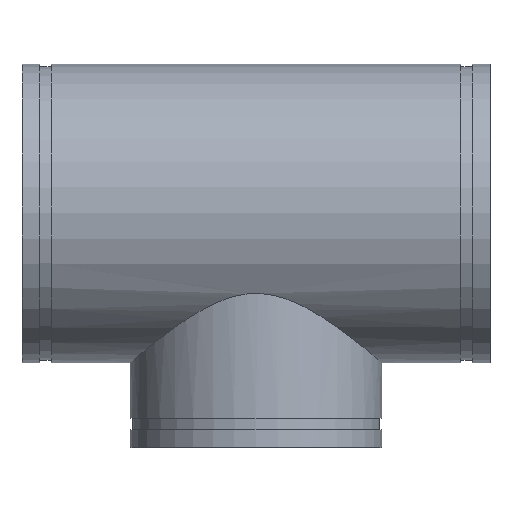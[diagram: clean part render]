
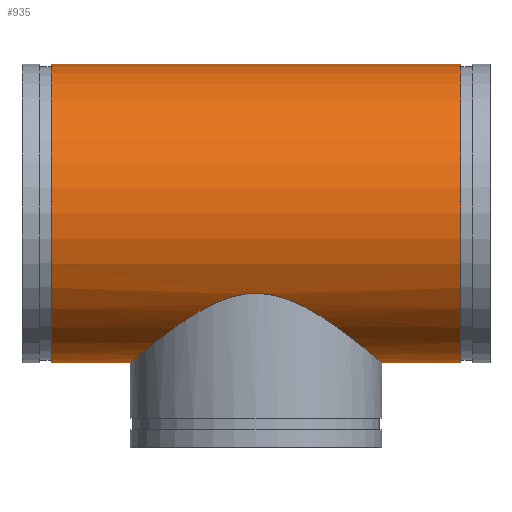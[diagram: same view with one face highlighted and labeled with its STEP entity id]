
A CAD part, top view. The second image highlights one B-rep face of the part: STEP entity #935.
In plain terms, the highlighted cylindrical face has radius 161.925 mm (diameter 323.85 mm), a full revolution.
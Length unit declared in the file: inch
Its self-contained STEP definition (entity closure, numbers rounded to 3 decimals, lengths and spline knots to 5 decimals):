
#61=FACE_BOUND('',#222,.T.);
#67=B_SPLINE_CURVE_WITH_KNOTS('',3,(#1815,#1816,#1817,#1818,#1819,#1820,
#1821,#1822,#1823,#1824,#1825,#1826,#1827,#1828,#1829,#1830,#1831,#1832,
#1833,#1834),.UNSPECIFIED.,.F.,.F.,(4,2,2,2,2,2,2,2,2,4),(0.,1.42907,
2.85814,5.71628,8.57442,11.43256,14.16483,
16.89711,19.62938,22.36165),.UNSPECIFIED.);
#68=B_SPLINE_CURVE_WITH_KNOTS('',3,(#1835,#1836,#1837,#1838,#1839,#1840,
#1841,#1842,#1843,#1844,#1845,#1846,#1847,#1848,#1849,#1850,#1851,#1852,
#1853,#1854,#1855,#1856,#1857,#1858,#1859,#1860,#1861,#1862,#1863,#1864,
#1865,#1866,#1867,#1868,#1869,#1870,#1871,#1872,#1873,#1874,#1875,#1876,
#1877,#1878,#1879,#1880,#1881,#1882,#1883,#1884,#1885,#1886,#1887,#1888,
#1889,#1890),.UNSPECIFIED.,.F.,.F.,(4,2,2,2,2,2,2,2,2,2,2,2,2,2,2,2,2,2,
2,2,2,2,2,2,2,2,2,4),(22.36165,25.09392,27.82619,
30.55846,33.29073,36.14887,39.00702,41.86516,
43.29423,44.7233,46.15237,47.58144,50.43958,
53.29772,56.15586,58.88813,61.6204,64.35267,
67.08495,69.81722,72.54949,75.28176,78.01403,
80.87217,83.73031,86.58845,88.01752,89.44659),
 .UNSPECIFIED.);
#81=CYLINDRICAL_SURFACE('',#1104,6.375);
#103=LINE('',#1812,#125);
#125=VECTOR('',#1432,6.375);
#171=FACE_OUTER_BOUND('',#221,.T.);
#221=EDGE_LOOP('',(#814,#815,#816,#817));
#222=EDGE_LOOP('',(#818,#819));
#326=CIRCLE('',#1087,6.375);
#337=CIRCLE('',#1103,6.375);
#424=VERTEX_POINT('',#1780);
#435=VERTEX_POINT('',#1809);
#436=VERTEX_POINT('',#1813);
#437=VERTEX_POINT('',#1814);
#552=EDGE_CURVE('',#424,#424,#326,.T.);
#565=EDGE_CURVE('',#435,#435,#337,.T.);
#566=EDGE_CURVE('',#435,#424,#103,.T.);
#567=EDGE_CURVE('',#436,#437,#67,.T.);
#568=EDGE_CURVE('',#437,#436,#68,.T.);
#814=ORIENTED_EDGE('',*,*,#565,.T.);
#815=ORIENTED_EDGE('',*,*,#566,.T.);
#816=ORIENTED_EDGE('',*,*,#552,.T.);
#817=ORIENTED_EDGE('',*,*,#566,.F.);
#818=ORIENTED_EDGE('',*,*,#567,.T.);
#819=ORIENTED_EDGE('',*,*,#568,.T.);
#935=ADVANCED_FACE('',(#171,#61),#81,.T.);
#1087=AXIS2_PLACEMENT_3D('',#1781,#1394,#1395);
#1103=AXIS2_PLACEMENT_3D('',#1810,#1428,#1429);
#1104=AXIS2_PLACEMENT_3D('',#1811,#1430,#1431);
#1394=DIRECTION('center_axis',(-1.,0.,0.));
#1395=DIRECTION('ref_axis',(0.,-1.,0.));
#1428=DIRECTION('center_axis',(1.,0.,0.));
#1429=DIRECTION('ref_axis',(0.,-1.,0.));
#1430=DIRECTION('center_axis',(-1.,0.,0.));
#1431=DIRECTION('ref_axis',(0.,-1.,0.));
#1432=DIRECTION('',(1.,0.,0.));
#1780=CARTESIAN_POINT('',(8.75,6.375,0.));
#1781=CARTESIAN_POINT('Origin',(8.75,0.,0.));
#1809=CARTESIAN_POINT('',(-8.75,6.375,0.));
#1810=CARTESIAN_POINT('Origin',(-8.75,0.,0.));
#1811=CARTESIAN_POINT('Origin',(10.,0.,0.));
#1812=CARTESIAN_POINT('',(10.,6.375,0.));
#1813=CARTESIAN_POINT('',(0.,-3.42783,-5.375));
#1814=CARTESIAN_POINT('',(-5.375,-6.375,0.));
#1815=CARTESIAN_POINT('Ctrl Pts',(0.,-3.42783,
-5.375));
#1816=CARTESIAN_POINT('Ctrl Pts',(-0.18754,-3.42783,
-5.375));
#1817=CARTESIAN_POINT('Ctrl Pts',(-0.37281,-3.44334,
-5.36519));
#1818=CARTESIAN_POINT('Ctrl Pts',(-0.73753,-3.50165,
-5.32732));
#1819=CARTESIAN_POINT('Ctrl Pts',(-0.917,-3.5444,
-5.29925));
#1820=CARTESIAN_POINT('Ctrl Pts',(-1.44528,-3.70489,-5.18953));
#1821=CARTESIAN_POINT('Ctrl Pts',(-1.78419,-3.85459,-5.08233));
#1822=CARTESIAN_POINT('Ctrl Pts',(-2.42892,-4.19216,-4.80768));
#1823=CARTESIAN_POINT('Ctrl Pts',(-2.73485,-4.37994,-4.63997));
#1824=CARTESIAN_POINT('Ctrl Pts',(-3.3034,-4.75572,-4.25397));
#1825=CARTESIAN_POINT('Ctrl Pts',(-3.56588,-4.94376,-4.03552));
#1826=CARTESIAN_POINT('Ctrl Pts',(-4.02518,-5.28483,-3.57622));
#1827=CARTESIAN_POINT('Ctrl Pts',(-4.24078,-5.45162,-3.32026));
#1828=CARTESIAN_POINT('Ctrl Pts',(-4.6285,-5.75838,-2.75414));
#1829=CARTESIAN_POINT('Ctrl Pts',(-4.80062,-5.89827,-2.44393));
#1830=CARTESIAN_POINT('Ctrl Pts',(-5.08234,-6.12975,-1.78566));
#1831=CARTESIAN_POINT('Ctrl Pts',(-5.19219,-6.22152,-1.4368));
#1832=CARTESIAN_POINT('Ctrl Pts',(-5.33855,-6.34417,-0.72327));
#1833=CARTESIAN_POINT('Ctrl Pts',(-5.375,-6.375,-0.35857));
#1834=CARTESIAN_POINT('Ctrl Pts',(-5.375,-6.375,0.));
#1835=CARTESIAN_POINT('Ctrl Pts',(-5.375,-6.375,0.));
#1836=CARTESIAN_POINT('Ctrl Pts',(-5.375,-6.375,0.35857));
#1837=CARTESIAN_POINT('Ctrl Pts',(-5.33855,-6.34417,0.72327));
#1838=CARTESIAN_POINT('Ctrl Pts',(-5.19219,-6.22152,1.4368));
#1839=CARTESIAN_POINT('Ctrl Pts',(-5.08234,-6.12975,1.78566));
#1840=CARTESIAN_POINT('Ctrl Pts',(-4.80062,-5.89827,2.44393));
#1841=CARTESIAN_POINT('Ctrl Pts',(-4.6285,-5.75838,2.75414));
#1842=CARTESIAN_POINT('Ctrl Pts',(-4.24078,-5.45162,3.32026));
#1843=CARTESIAN_POINT('Ctrl Pts',(-4.02518,-5.28483,3.57622));
#1844=CARTESIAN_POINT('Ctrl Pts',(-3.56588,-4.94376,4.03552));
#1845=CARTESIAN_POINT('Ctrl Pts',(-3.3034,-4.75572,4.25397));
#1846=CARTESIAN_POINT('Ctrl Pts',(-2.73485,-4.37994,4.63997));
#1847=CARTESIAN_POINT('Ctrl Pts',(-2.42892,-4.19216,4.80768));
#1848=CARTESIAN_POINT('Ctrl Pts',(-1.78419,-3.85459,5.08233));
#1849=CARTESIAN_POINT('Ctrl Pts',(-1.44528,-3.70489,5.18953));
#1850=CARTESIAN_POINT('Ctrl Pts',(-0.917,-3.5444,
5.29925));
#1851=CARTESIAN_POINT('Ctrl Pts',(-0.73753,-3.50165,
5.32732));
#1852=CARTESIAN_POINT('Ctrl Pts',(-0.37281,-3.44334,
5.36519));
#1853=CARTESIAN_POINT('Ctrl Pts',(-0.18754,-3.42783,
5.375));
#1854=CARTESIAN_POINT('Ctrl Pts',(0.18754,-3.42783,5.375));
#1855=CARTESIAN_POINT('Ctrl Pts',(0.37281,-3.44334,5.36519));
#1856=CARTESIAN_POINT('Ctrl Pts',(0.73753,-3.50165,5.32732));
#1857=CARTESIAN_POINT('Ctrl Pts',(0.917,-3.5444,5.29925));
#1858=CARTESIAN_POINT('Ctrl Pts',(1.44528,-3.70489,5.18953));
#1859=CARTESIAN_POINT('Ctrl Pts',(1.78419,-3.85459,5.08233));
#1860=CARTESIAN_POINT('Ctrl Pts',(2.42892,-4.19216,4.80768));
#1861=CARTESIAN_POINT('Ctrl Pts',(2.73485,-4.37994,4.63997));
#1862=CARTESIAN_POINT('Ctrl Pts',(3.3034,-4.75572,4.25397));
#1863=CARTESIAN_POINT('Ctrl Pts',(3.56588,-4.94376,4.03552));
#1864=CARTESIAN_POINT('Ctrl Pts',(4.02518,-5.28483,3.57622));
#1865=CARTESIAN_POINT('Ctrl Pts',(4.24078,-5.45162,3.32026));
#1866=CARTESIAN_POINT('Ctrl Pts',(4.6285,-5.75838,2.75414));
#1867=CARTESIAN_POINT('Ctrl Pts',(4.80062,-5.89827,2.44393));
#1868=CARTESIAN_POINT('Ctrl Pts',(5.08234,-6.12975,1.78566));
#1869=CARTESIAN_POINT('Ctrl Pts',(5.19219,-6.22152,1.4368));
#1870=CARTESIAN_POINT('Ctrl Pts',(5.33855,-6.34417,0.72327));
#1871=CARTESIAN_POINT('Ctrl Pts',(5.375,-6.375,0.35857));
#1872=CARTESIAN_POINT('Ctrl Pts',(5.375,-6.375,-0.35857));
#1873=CARTESIAN_POINT('Ctrl Pts',(5.33855,-6.34417,-0.72327));
#1874=CARTESIAN_POINT('Ctrl Pts',(5.19219,-6.22152,-1.4368));
#1875=CARTESIAN_POINT('Ctrl Pts',(5.08234,-6.12975,-1.78566));
#1876=CARTESIAN_POINT('Ctrl Pts',(4.80062,-5.89827,-2.44393));
#1877=CARTESIAN_POINT('Ctrl Pts',(4.6285,-5.75838,-2.75414));
#1878=CARTESIAN_POINT('Ctrl Pts',(4.24078,-5.45162,-3.32026));
#1879=CARTESIAN_POINT('Ctrl Pts',(4.02518,-5.28483,-3.57622));
#1880=CARTESIAN_POINT('Ctrl Pts',(3.56588,-4.94376,-4.03552));
#1881=CARTESIAN_POINT('Ctrl Pts',(3.3034,-4.75572,-4.25397));
#1882=CARTESIAN_POINT('Ctrl Pts',(2.73485,-4.37994,-4.63997));
#1883=CARTESIAN_POINT('Ctrl Pts',(2.42892,-4.19216,-4.80768));
#1884=CARTESIAN_POINT('Ctrl Pts',(1.78419,-3.85459,-5.08233));
#1885=CARTESIAN_POINT('Ctrl Pts',(1.44528,-3.70489,-5.18953));
#1886=CARTESIAN_POINT('Ctrl Pts',(0.917,-3.5444,-5.29925));
#1887=CARTESIAN_POINT('Ctrl Pts',(0.73753,-3.50165,-5.32732));
#1888=CARTESIAN_POINT('Ctrl Pts',(0.37281,-3.44334,-5.36519));
#1889=CARTESIAN_POINT('Ctrl Pts',(0.18754,-3.42783,-5.375));
#1890=CARTESIAN_POINT('Ctrl Pts',(0.,-3.42783,
-5.375));
